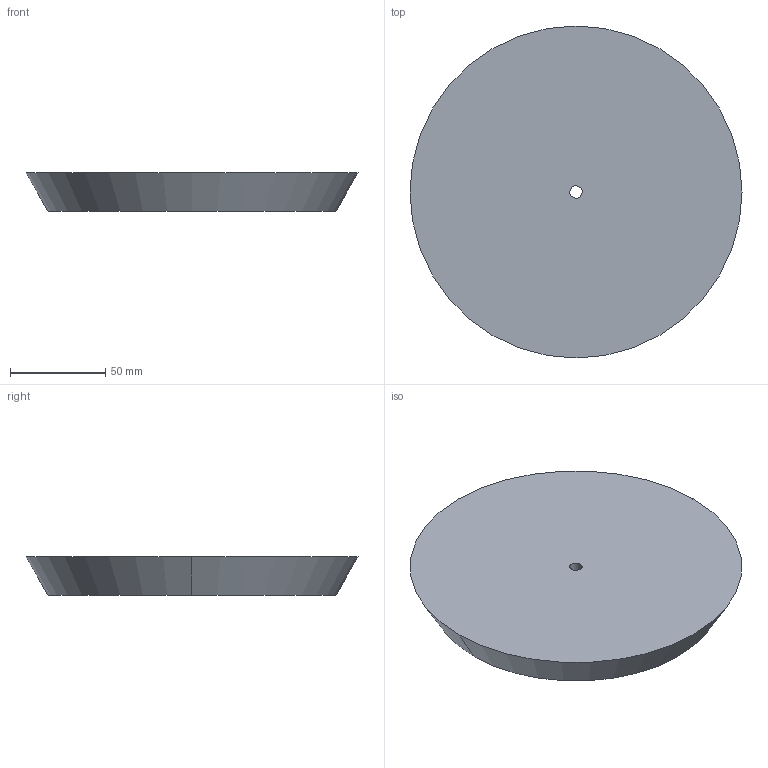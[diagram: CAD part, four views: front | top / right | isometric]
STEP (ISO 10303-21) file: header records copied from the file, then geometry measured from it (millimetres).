
FILE_DESCRIPTION(('CATIA V5 STEP Exchange'),'2;1');
FILE_NAME('C:\Users\andres.garcia\OneDrive - IQS\ASIGNATURAS\DAO\Controles\2223\c0\c1-VOLLMER_Daniel-tapon.stp','2023-02-03T08:22:07+00:00',('none'),('none'),'CATIA Version 5-6 Release 2013 SP6','CATIA V5 STEP AP203','none');
FILE_SCHEMA(('CONFIG_CONTROL_DESIGN'));
Length unit declared in the file: millimetre
Products named in the file (1): c1-VOLLMER_Daniel-tapon
Bounding box: 174 x 174 x 20 mm (x, y, z)
Volume: 414582.9 mm3; surface area: 53792.6 mm2
Topology: 1 solids, 1 shells, 6 faces, 12 edges, 8 vertices
Faces by surface type: cylinder 2, plane 2, cone 2
Entity records: 196 total; most frequent: CARTESIAN_POINT 26, ORIENTED_EDGE 24, DIRECTION 22, AXIS2_PLACEMENT_3D 14, EDGE_CURVE 12, CIRCLE 8, EDGE_LOOP 8, VERTEX_POINT 8
